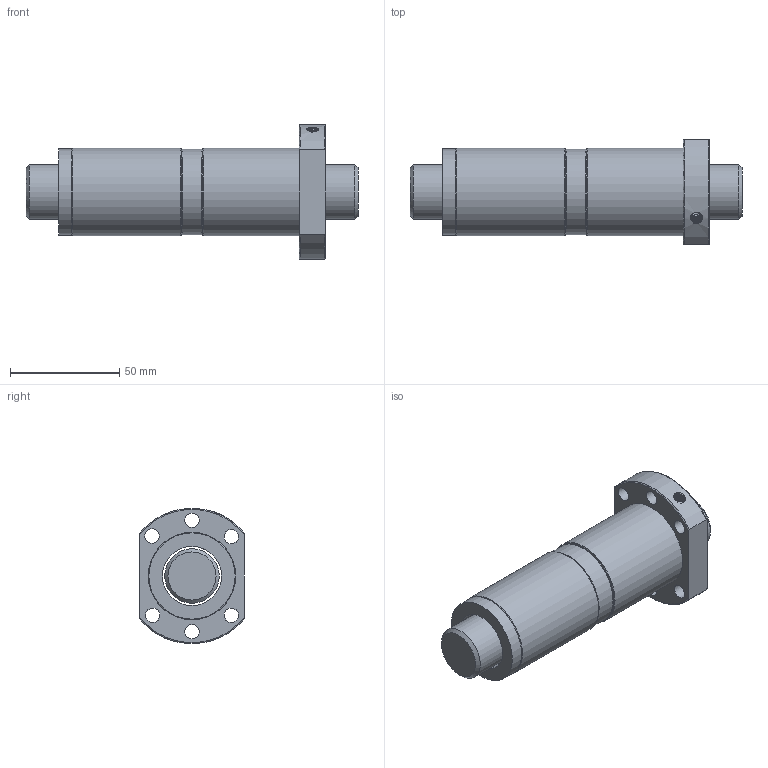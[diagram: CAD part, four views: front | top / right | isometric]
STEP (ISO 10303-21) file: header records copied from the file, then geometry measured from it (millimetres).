
FILE_DESCRIPTION(/* description */ ('Unknown','CAx-IF Rec.Pracs.---Representation and Presentation of Product Manufacturing Information (PMI)---4.0---2014-10-13','CAx-IF Rec.Pracs.---3D Tessellated Geometry---0.4---2014-09-14','2;1'),/* implementation_level */ '2;1');
FILE_NAME(/* name */ 'DFS02510',/* time_stamp */ '2020-12-07T10:35:38+08:00',/* author */ ('Unknown'),/* organization */ ('Unknown'),/* preprocessor_version */ 'ST-DEVELOPER v16.7',/* originating_system */ 'Solid Edge',/* authorisation */ 'Unknown');
FILE_SCHEMA (('AP242_MANAGED_MODEL_BASED_3D_ENGINEERING_MIM_LF { 1 0 10303 442 1 1 4 }'));
Length unit declared in the file: millimetre
Products named in the file (1): DFS02510
Bounding box: 152 x 48 x 61.8 mm (x, y, z)
Volume: 170941.8 mm3; surface area: 44916.3 mm2
Topology: 2 solids, 2 shells, 43 faces, 100 edges, 65 vertices
Faces by surface type: cylinder 18, plane 11, torus 9, cone 3, bspline 2
Full cylindrical faces by diameter (mm): 4 x1, 4.917 x1, 6.6 x6, 25 x1, 27 x1, 39 x1, 39.5 x1, 40 x2
Entity records: 3264 total; most frequent: CARTESIAN_POINT 2313, DIRECTION 186, ORIENTED_EDGE 142, AXIS2_PLACEMENT_3D 90, EDGE_LOOP 85, FACE_BOUND 85, EDGE_CURVE 71, VERTEX_POINT 58
